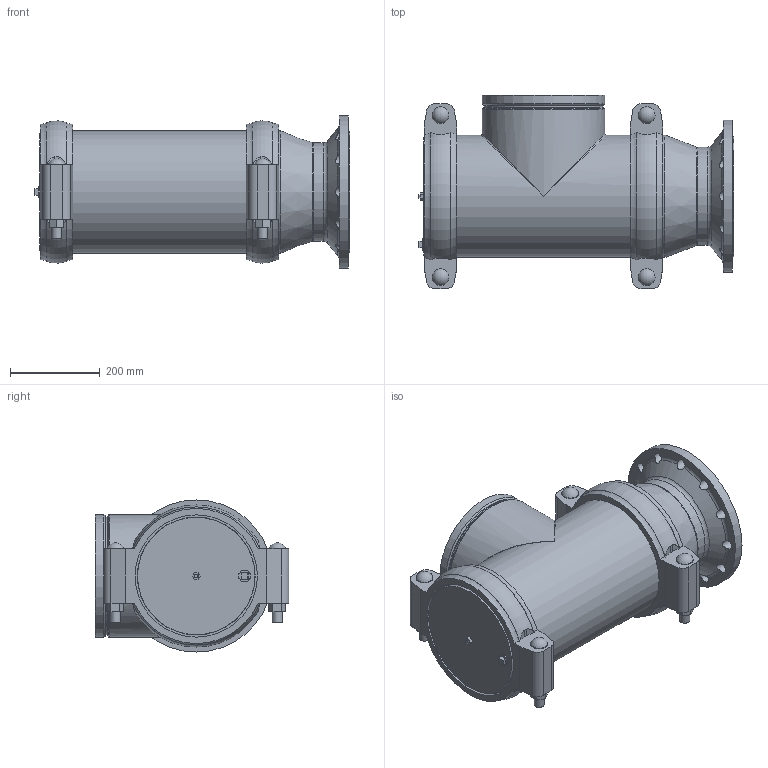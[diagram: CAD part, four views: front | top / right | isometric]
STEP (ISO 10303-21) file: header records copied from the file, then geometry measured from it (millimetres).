
FILE_DESCRIPTION(/* description */ ('VIC STRENGTHIN SUCTION DIFFUSER SERIES E431','CAx-IF Rec.Pracs.---Representation and Presentation of Product Manufacturing Information (PMI)---4.0---2014-10-13'),/* implementation_level */ '2;1');
FILE_NAME(/* name */ 'C:\Users\Vjadhav\AppData\Roaming\Autodesk\ApplicationPlugins\Back Up\Victaulic_SS-StrengThin 100_Suction Diffuser_PN16_Series E431 (ST1xFLG)\Victaulic_SS-StrengThin 100_Suction Diffuser_PN16_10.0x08.0 (250x200).stp',/* time_stamp */ '2020-07-07T13:03:07+06:00',/* author */ ('VJadhav'),/* organization */ ('Victaulic'),/* preprocessor_version */ 'ST-DEVELOPER v17.2',/* originating_system */ 'Autodesk Inventor 2019',/* authorisation */ '');
FILE_SCHEMA (('AP242_MANAGED_MODEL_BASED_3D_ENGINEERING_MIM_LF { 1 0 10303 442 1 1 4 }'));
Length unit declared in the file: inch
Products named in the file (5): E431-10.0x08.0; E492-10.0; E431-10.0; E497-10.0; E431-10.0_1
Assembly tree (5 placements, depth 2):
  E431-10.0x08.0
    E492-10.0
    E497-10.0  x2
    E431-10.0
    E431-10.0_1
Bounding box: 704.85 x 432.05 x 339.85 mm (x, y, z)
Volume: 10263489.6 mm3; surface area: 1957677.3 mm2
Topology: 5 solids, 9 shells, 330 faces, 942 edges, 642 vertices
Faces by surface type: plane 118, cylinder 112, torus 74, cone 12, sphere 12, bspline 2
Full cylindrical faces by diameter (mm): 22.098 x12, 22.225 x8, 26.67 x1, 37.694 x4, 205.486 x1, 206.502 x1, 212.09 x1, 219.202 x1, 259.182 x3, 260.35 x2, 262.636 x1, 265.176 x3, 267.056 x5, 269.24 x1, 273.05 x11, 339.852 x1
Entity records: 9741 total; most frequent: CARTESIAN_POINT 2257, DIRECTION 1595, ORIENTED_EDGE 1470, EDGE_CURVE 735, AXIS2_PLACEMENT_3D 686, VERTEX_POINT 504, CIRCLE 416, EDGE_LOOP 295
